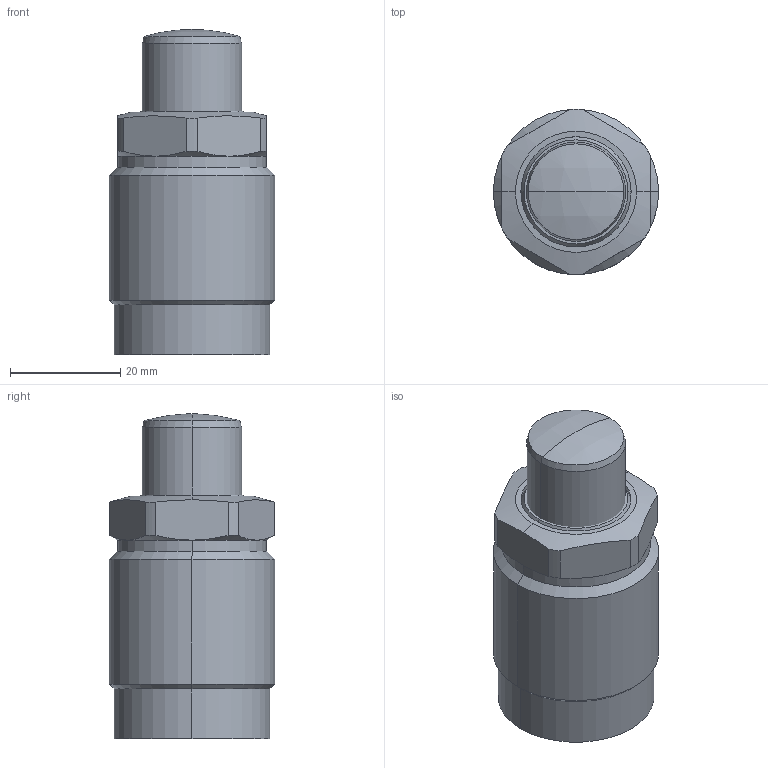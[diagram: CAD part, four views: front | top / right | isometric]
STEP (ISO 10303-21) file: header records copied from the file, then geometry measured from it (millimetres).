
FILE_DESCRIPTION (( 'STEP AP203' ), '1' );
FILE_NAME ('650301-RM.step', '2016-11-02T03:14:14', ( 'wxp' ), ( '' ), 'SwSTEP 2.0', 'SolidWorks 2011', '' );
FILE_SCHEMA (( 'CONFIG_CONTROL_DESIGN' ));
Length unit declared in the file: millimetre
Products named in the file (3): 650301-RM; 葩璃 650301-RM.sldasm-Part-2^650301-RM; 葩璃 650301-RM.sldasm-Part-1^650301-RM
Assembly tree (2 placements, depth 2):
  650301-RM
    葩璃 650301-RM.sldasm-Part-1^650301-RM
    葩璃 650301-RM.sldasm-Part-2^650301-RM
Bounding box: 30 x 30 x 59 mm (x, y, z)
Volume: 32440.1 mm3; surface area: 6980.9 mm2
Topology: 2 solids, 2 shells, 67 faces, 152 edges, 94 vertices
Faces by surface type: cylinder 26, cone 18, plane 15, torus 6, sphere 2
Entity records: 2247 total; most frequent: CARTESIAN_POINT 436, DIRECTION 344, ORIENTED_EDGE 300, EDGE_CURVE 150, AXIS2_PLACEMENT_3D 150, VERTEX_POINT 94, CIRCLE 78, EDGE_LOOP 74
